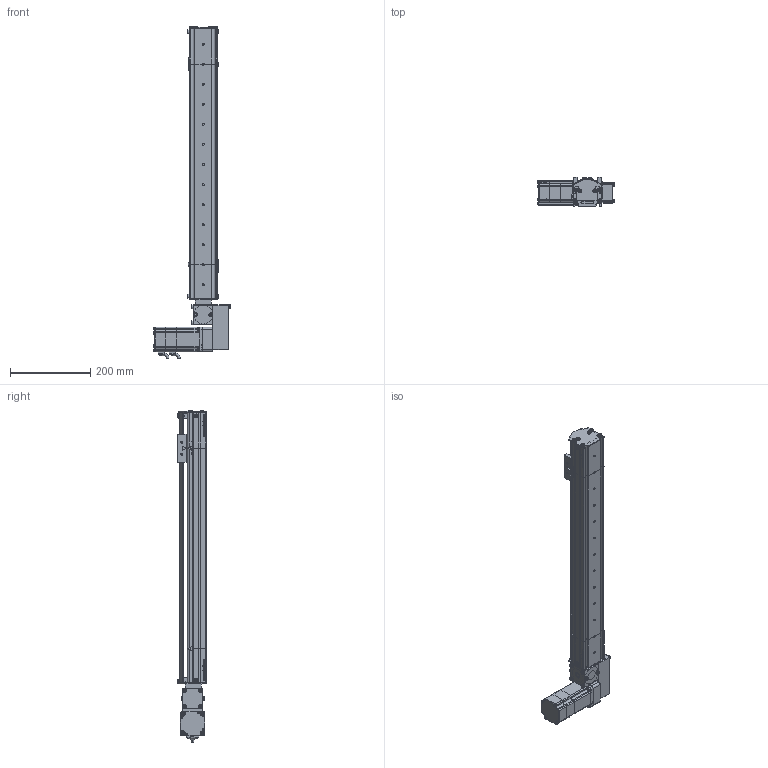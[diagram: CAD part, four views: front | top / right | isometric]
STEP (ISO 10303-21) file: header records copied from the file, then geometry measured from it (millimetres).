
FILE_DESCRIPTION (( 'STEP AP214' ), '1' );
FILE_NAME ('S07 TBN LH S500.STEP', '2010-06-29T11:29:56', ( 'Conseil Régional Haute-Normandie' ), ( 'Conseil Régional Haute-Normandie' ), 'SwSTEP 2.0', 'SolidWorks 2010', '' );
FILE_SCHEMA (( 'AUTOMOTIVE_DESIGN' ));
Length unit declared in the file: millimetre
Products named in the file (41): corp tail TB_Default; couvercle tail TB; plaque de bout_Default; Conecteur2 60BLDC_Default; Conecteur 60BLDC_Default; Cvis M5 L30_Default; T皻e de poulie_Default; Poulie_Default; vis M5 L12_Default; CHariot_Default; couroie tail_Default; guide; Chariot; vis M5 L16_Default; Vis M5 L16-2_Default; Couroie  course 500_Default; Corp S07 course 500_Default; Course C L500_Default; corp moteur LH-RH(146)_Default; S07 LH(146)_Default; couvercle S07 course 500 ; Poulie head_Default; cache t皻e axe_Default; couvercle moteur S07 TB; plaque de bout LH_Default; Pièce5^S07 LH(146); vis M5 L5_Default; cache t皻e_Default; renvoi LH_Default; Plaque racord_Default; Couroie t皻e_Default; P2 90A_Default; VisM3_Default; P1_Default; GMB 60 90 310_Default; Axe 60BLDC_Default; P4_Default; P3 90A_Default; S07 TB tail (78)_Default; S07 TBN LH S500
Assembly tree (80 placements, depth 4):
  Pièce5^S07 LH(146)
  S07 TBN LH S500
    CHariot_Default
      vis M5 L16_Default  x2
      Chariot
      guide
    S07 LH(146)_Default
      vis M5 L12_Default  x6
      Poulie head_Default
      cache t皻e_Default  x2
      Vis M5 L16-2_Default  x8
      vis M5 L5_Default  x6
      Cvis M5 L30_Default  x2
      renvoi LH_Default
      corp moteur LH-RH(146)_Default
      Couroie t皻e_Default
      plaque de bout LH_Default
      cache t皻e axe_Default
      couvercle moteur S07 TB
      GMB 60 90 310_Default
        P2 90A_Default
        Conecteur 60BLDC_Default
        VisM3_Default  x12
        P3 90A_Default
        P1_Default
        Axe 60BLDC_Default
        Conecteur2 60BLDC_Default
        P4_Default
      Plaque racord_Default
    S07 TB tail (78)_Default
      vis M5 L12_Default  x10
      plaque de bout_Default
      Poulie_Default
        T皻e de poulie_Default
        Poulie_Default
      couroie tail_Default
      corp tail TB_Default
      couvercle tail TB
    Course C L500_Default
      couvercle S07 course 500 
      Corp S07 course 500_Default
      Couroie  course 500_Default
Bounding box: 190.2 x 72.2 x 827 mm (x, y, z)
Volume: 1867101.2 mm3; surface area: 757056.4 mm2
Topology: 102 solids, 102 shells, 3908 faces, 9744 edges, 6293 vertices
Faces by surface type: plane 2226, cylinder 752, bspline 677, cone 125, torus 124, sphere 4
Entity records: 166849 total; most frequent: CARTESIAN_POINT 75149, ORIENTED_EDGE 15400, DIRECTION 12217, EDGE_CURVE 7700, VERTEX_POINT 5081, LINE 5039, VECTOR 5039, AXIS2_PLACEMENT_3D 3589
